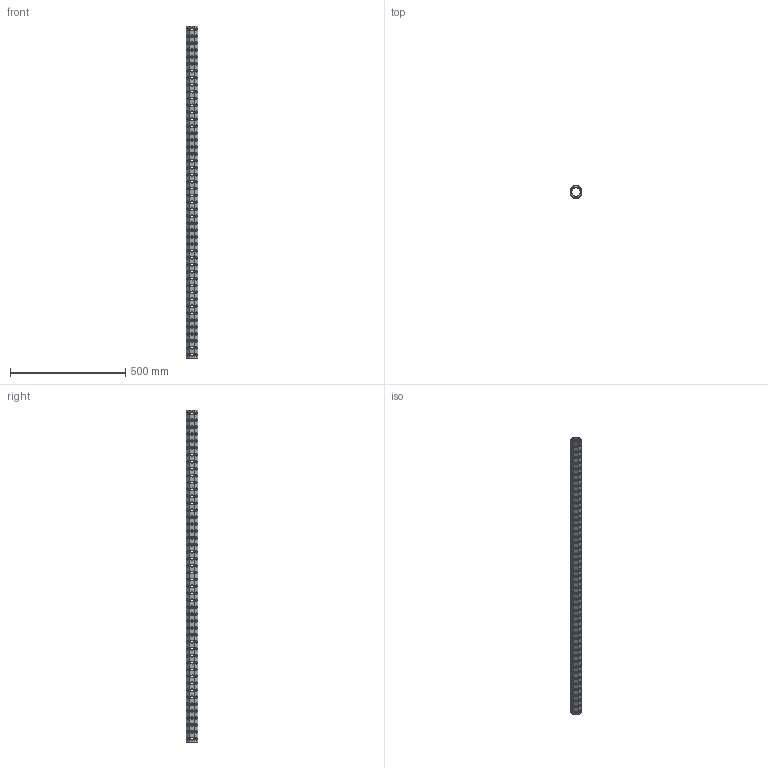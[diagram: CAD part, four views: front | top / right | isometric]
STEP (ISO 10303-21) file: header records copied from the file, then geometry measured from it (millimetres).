
FILE_DESCRIPTION(('CATIA V5 STEP Exchange'),'2;1');
FILE_NAME('U:\Room\唐宝山\EGT002\46-01-010277-01-EGT002-1438.stp','2021-08-24T01:25:36+00:00',('none'),('none'),'CATIA Version 5 Release 21 GA (IN-10)','CATIA V5 STEP AP203','none');
FILE_SCHEMA(('CONFIG_CONTROL_DESIGN'));
Products named in the file (1): 46-01-010277-01-EGT002-1438
Bounding box: 50 x 50 x 1438 mm (x, y, z)
Volume: 1024491.1 mm3; surface area: 494426.8 mm2
Topology: 1 solids, 1 shells, 2004 faces, 5526 edges, 3428 vertices
Faces by surface type: cone 1152, cylinder 826, plane 26
Entity records: 81571 total; most frequent: CARTESIAN_POINT 32970, ORIENTED_EDGE 11052, DIRECTION 7830, EDGE_CURVE 5526, AXIS2_PLACEMENT_3D 3681, VERTEX_POINT 3428, EDGE_LOOP 2678, VECTOR 2146
